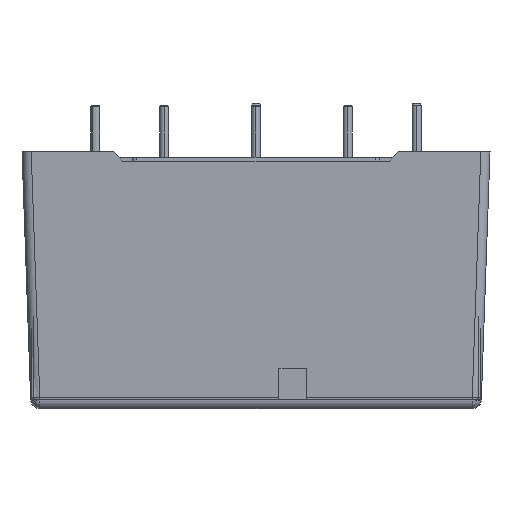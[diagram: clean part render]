
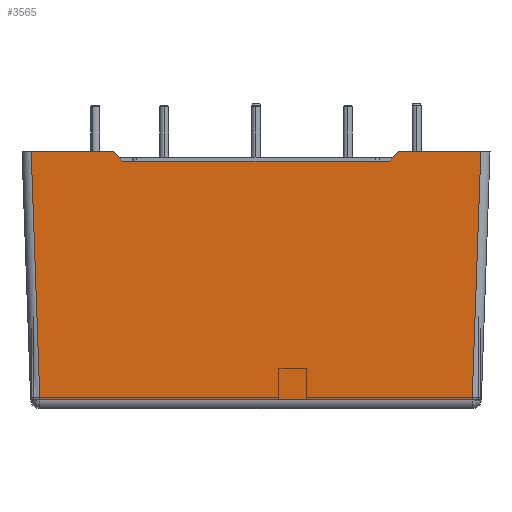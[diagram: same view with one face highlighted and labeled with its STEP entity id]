
A CAD part, left-side view. The second image highlights one B-rep face of the part: STEP entity #3565.
In plain terms, the highlighted planar face has unit normal (-0.999, 0, -0.035).
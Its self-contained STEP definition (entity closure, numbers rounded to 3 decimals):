
#154 = DIRECTION ( 'NONE',  ( 0.025, 0.694, -0.719 ) ) ;
#372 = VECTOR ( 'NONE', #7251, 1000. ) ;
#411 = VECTOR ( 'NONE', #3182, 1000. ) ;
#565 = LINE ( 'NONE', #740, #372 ) ;
#580 = EDGE_LOOP ( 'NONE', ( #5640, #1394, #3390, #3697, #6533, #2084, #3991, #5059 ) ) ;
#682 = CARTESIAN_POINT ( 'NONE',  ( 0.035, 10.966, 27. ) ) ;
#740 = CARTESIAN_POINT ( 'NONE',  ( 0., 25.5, 28. ) ) ;
#884 = CARTESIAN_POINT ( 'NONE',  ( 0.944, 0., 0.965 ) ) ;
#1023 = LINE ( 'NONE', #1253, #2411 ) ;
#1078 = CARTESIAN_POINT ( 'NONE',  ( 0., 50.001, 28. ) ) ;
#1118 = EDGE_CURVE ( 'NONE', #7183, #3513, #4892, .T. ) ;
#1253 = CARTESIAN_POINT ( 'NONE',  ( 0., 50.001, 28. ) ) ;
#1255 = CARTESIAN_POINT ( 'NONE',  ( 0.944, 1.943, 0.965 ) ) ;
#1394 = ORIENTED_EDGE ( 'NONE', *, *, #5363, .F. ) ;
#1467 = VERTEX_POINT ( 'NONE', #3107 ) ;
#1560 = EDGE_CURVE ( 'NONE', #4299, #5749, #6723, .T. ) ;
#1849 = CARTESIAN_POINT ( 'NONE',  ( 0., 41., 28. ) ) ;
#2084 = ORIENTED_EDGE ( 'NONE', *, *, #1560, .F. ) ;
#2223 = VECTOR ( 'NONE', #6613, 1000. ) ;
#2411 = VECTOR ( 'NONE', #5421, 1000. ) ;
#2416 = EDGE_CURVE ( 'NONE', #7608, #1467, #4570, .T. ) ;
#2532 = DIRECTION ( 'NONE',  ( -0.035, 0., 0.999 ) ) ;
#2570 = CARTESIAN_POINT ( 'NONE',  ( 0., 25.5, 28. ) ) ;
#2602 = EDGE_CURVE ( 'NONE', #4299, #3426, #1023, .T. ) ;
#2804 = FACE_OUTER_BOUND ( 'NONE', #580, .T. ) ;
#3107 = CARTESIAN_POINT ( 'NONE',  ( 0., 0.999, 28. ) ) ;
#3182 = DIRECTION ( 'NONE',  ( 0., -1., 0. ) ) ;
#3390 = ORIENTED_EDGE ( 'NONE', *, *, #1118, .T. ) ;
#3426 = VERTEX_POINT ( 'NONE', #4799 ) ;
#3513 = VERTEX_POINT ( 'NONE', #682 ) ;
#3565 = ADVANCED_FACE ( 'NONE', ( #2804 ), #7274, .T. ) ;
#3697 = ORIENTED_EDGE ( 'NONE', *, *, #5909, .F. ) ;
#3811 = LINE ( 'NONE', #1849, #2223 ) ;
#3939 = CARTESIAN_POINT ( 'NONE',  ( 0.944, 1.943, 0.965 ) ) ;
#3991 = ORIENTED_EDGE ( 'NONE', *, *, #2602, .T. ) ;
#4299 = VERTEX_POINT ( 'NONE', #1078 ) ;
#4306 = CARTESIAN_POINT ( 'NONE',  ( 0., 10., 28. ) ) ;
#4570 = LINE ( 'NONE', #3939, #6340 ) ;
#4653 = CARTESIAN_POINT ( 'NONE',  ( 0., 41., 28. ) ) ;
#4799 = CARTESIAN_POINT ( 'NONE',  ( 0.944, 49.057, 0.965 ) ) ;
#4892 = LINE ( 'NONE', #4306, #6097 ) ;
#5045 = DIRECTION ( 'NONE',  ( 0., -1., 0. ) ) ;
#5059 = ORIENTED_EDGE ( 'NONE', *, *, #7222, .T. ) ;
#5363 = EDGE_CURVE ( 'NONE', #7183, #1467, #565, .T. ) ;
#5421 = DIRECTION ( 'NONE',  ( 0.035, -0.035, -0.999 ) ) ;
#5513 = CARTESIAN_POINT ( 'NONE',  ( 0.977, 0., 0.017 ) ) ;
#5640 = ORIENTED_EDGE ( 'NONE', *, *, #2416, .T. ) ;
#5749 = VERTEX_POINT ( 'NONE', #4653 ) ;
#5834 = LINE ( 'NONE', #6530, #7038 ) ;
#5909 = EDGE_CURVE ( 'NONE', #6328, #3513, #5834, .T. ) ;
#6097 = VECTOR ( 'NONE', #154, 1000. ) ;
#6114 = DIRECTION ( 'NONE',  ( -0.999, 0., -0.035 ) ) ;
#6161 = VECTOR ( 'NONE', #5045, 1000. ) ;
#6328 = VERTEX_POINT ( 'NONE', #7497 ) ;
#6340 = VECTOR ( 'NONE', #7487, 1000. ) ;
#6530 = CARTESIAN_POINT ( 'NONE',  ( 0.035, 25.5, 27. ) ) ;
#6533 = ORIENTED_EDGE ( 'NONE', *, *, #7630, .F. ) ;
#6613 = DIRECTION ( 'NONE',  ( 0.025, -0.694, -0.719 ) ) ;
#6723 = LINE ( 'NONE', #2570, #411 ) ;
#6901 = AXIS2_PLACEMENT_3D ( 'NONE', #5513, #6114, #2532 ) ;
#7038 = VECTOR ( 'NONE', #7103, 1000. ) ;
#7103 = DIRECTION ( 'NONE',  ( 0., -1., 0. ) ) ;
#7183 = VERTEX_POINT ( 'NONE', #7188 ) ;
#7188 = CARTESIAN_POINT ( 'NONE',  ( 0., 10., 28. ) ) ;
#7222 = EDGE_CURVE ( 'NONE', #3426, #7608, #7344, .T. ) ;
#7251 = DIRECTION ( 'NONE',  ( 0., -1., 0. ) ) ;
#7274 = PLANE ( 'NONE',  #6901 ) ;
#7344 = LINE ( 'NONE', #884, #6161 ) ;
#7487 = DIRECTION ( 'NONE',  ( -0.035, -0.035, 0.999 ) ) ;
#7497 = CARTESIAN_POINT ( 'NONE',  ( 0.035, 40.034, 27. ) ) ;
#7608 = VERTEX_POINT ( 'NONE', #1255 ) ;
#7630 = EDGE_CURVE ( 'NONE', #5749, #6328, #3811, .T. ) ;
